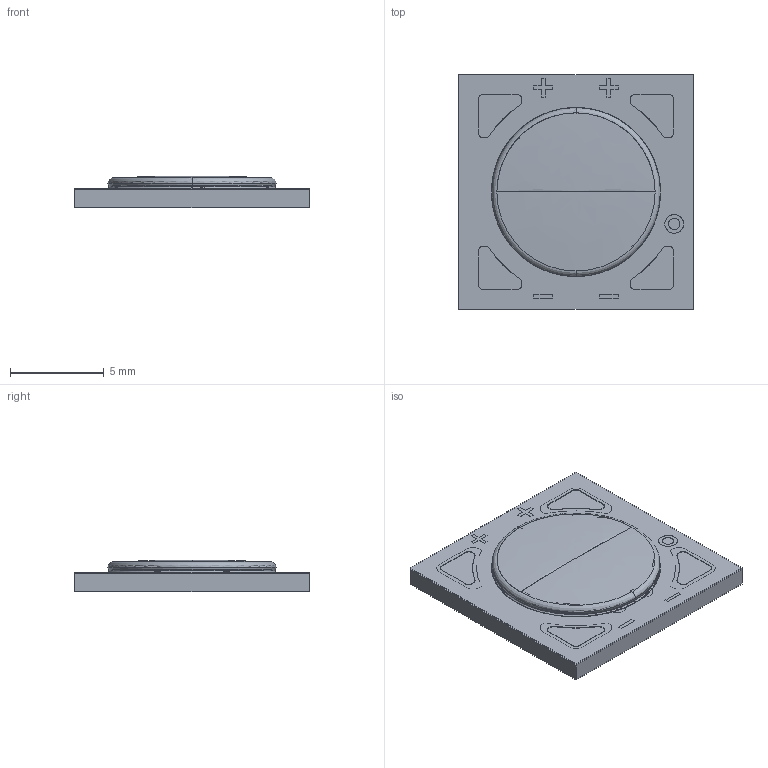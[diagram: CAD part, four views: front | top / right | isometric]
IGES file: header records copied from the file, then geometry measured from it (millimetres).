
Start section: SolidWorks IGES file using analytic representation for surfaces
Global section: file name: C:\Users\michaelsolomensky\Documents\MSdesign\Projects\800 Sub\marketing\V8 BXRE.IGS; native system: SolidWorks 2013; preprocessor: SolidWorks 2013; author: michaelsolomensky; date: 130801.130618; units: millimetre
Bounding box: 12.5 x 12.5 x 1.7 mm (x, y, z)
Surface area: 806.3 mm2 (no closed solid volume)
Topology: 0 solids, 0 shells, 188 faces, 1660 edges, 1659 vertices
Faces by surface type: bspline 120, revolution 68
